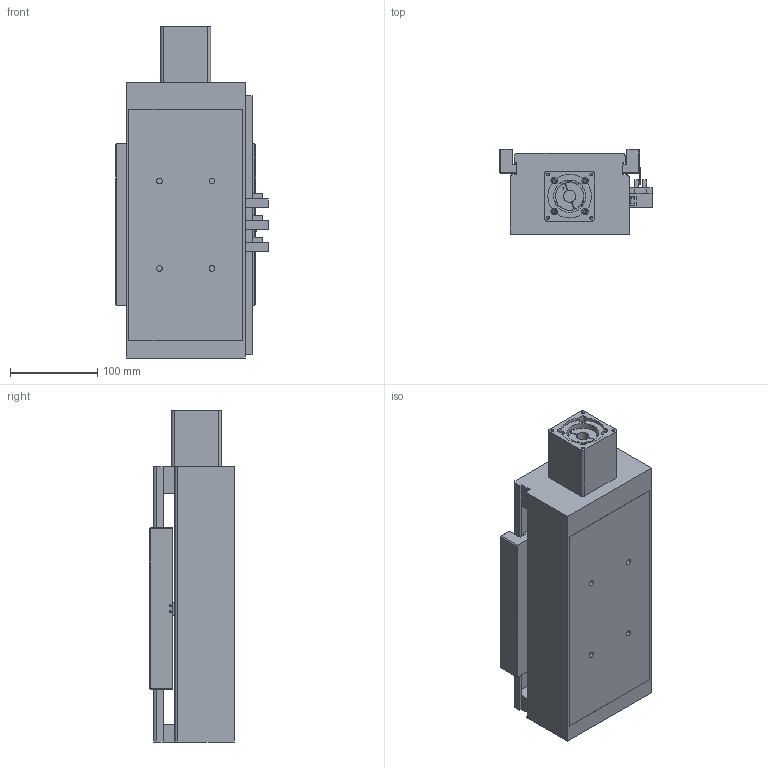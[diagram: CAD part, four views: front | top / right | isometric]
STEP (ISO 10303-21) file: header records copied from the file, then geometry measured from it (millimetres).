
FILE_DESCRIPTION((''),'2;1');
FILE_NAME('E:\libraries\UIA actuator library 2009\standard actuator\UIA136 ball screw 20\UIA136R15NDC stp file 27Apr16\UIA136R15NDC-050-R20_ _-M60-P13-C10-S.stp','2016-04-27T13:44:05',('h029'),(''),'Autodesk Inventor 11','Autodesk Inventor 11','');
FILE_SCHEMA(('AUTOMOTIVE_DESIGN { 1 0 10303 214 1 1 1 1 }'));
Length unit declared in the file: millimetre
Products named in the file (10): UIA136R15NDC-050; UIA136R15NDC-body; motor mount F60; SOH-32C; SOH-32C-3; SOH-32C-1; SOH-32C-2; Carriage; Sensor Switch; sensor rail
Assembly tree (9 placements, depth 3):
  UIA136R15NDC-050
    UIA136R15NDC-body
    motor mount F60
    SOH-32C
      SOH-32C-3
      SOH-32C-1
      SOH-32C-2
    Carriage
    Sensor Switch
    sensor rail
Bounding box: 174.5 x 98 x 380 mm (x, y, z)
Volume: 2012443.1 mm3; surface area: 463091.5 mm2
Topology: 8 solids, 8 shells, 455 faces, 1221 edges, 801 vertices
Faces by surface type: plane 311, bspline 102, cylinder 38, cone 4
Full cylindrical faces by diameter (mm): 2.459 x2, 3.242 x2, 4.5 x2, 5.5 x3, 7.5 x2, 10 x2, 12 x1, 14 x1, 32 x3, 37 x1, 41.9 x1, 42.1 x1, 43.5 x1
Entity records: 14915 total; most frequent: CARTESIAN_POINT 4178, ORIENTED_EDGE 2098, DIRECTION 2034, EDGE_CURVE 1049, VECTOR 790, LINE 790, VERTEX_POINT 736, EDGE_LOOP 641
